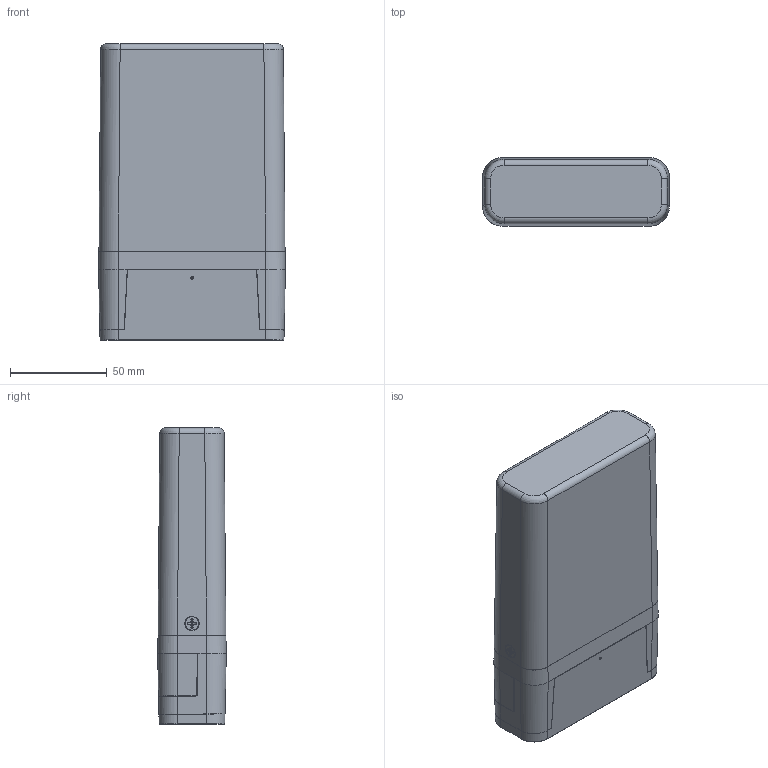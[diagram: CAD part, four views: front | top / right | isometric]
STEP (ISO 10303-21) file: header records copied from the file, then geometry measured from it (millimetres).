
FILE_DESCRIPTION(/* description */ ('Unknown'),/* implementation_level */ '2;1');
FILE_NAME(/* name */ 'AURA-X (661131)',/* time_stamp */ '2025-09-02T14:23:03+02:00',/* author */ ('Unknown'),/* organization */ ('Unknown'),/* preprocessor_version */ 'ST-DEVELOPER v19.4',/* originating_system */ 'Solid Edge',/* authorisation */ 'Unknown');
FILE_SCHEMA (('AUTOMOTIVE_DESIGN {1 0 10303 214 3 1 1}'));
Products named in the file (8): 661131; 322930; 322950; 322940; 322960; 430761_oa_0; 134458; 184084
Assembly tree (9 placements, depth 3):
  661131
    322930
    322950
    322940
    322960
    430761_oa_0
      134458  x2
      184084  x2
Bounding box: 96.4 x 35.43 x 153 mm (x, y, z)
Volume: 144819.7 mm3; surface area: 117478.4 mm2
Topology: 8 solids, 8 shells, 6639 faces, 18565 edges, 11991 vertices
Faces by surface type: plane 4543, bspline 746, cylinder 727, cone 516, torus 101, sphere 6
Full cylindrical faces by diameter (mm): 2.5 x1, 3.5 x2, 3.6 x3, 3.9 x2, 6 x2, 6.8 x2, 8 x4, 10 x2, 14.5 x4
Entity records: 222031 total; most frequent: CARTESIAN_POINT 58008, ORIENTED_EDGE 36606, DIRECTION 30573, EDGE_CURVE 18303, LINE 13587, VECTOR 13587, VERTEX_POINT 11889, AXIS2_PLACEMENT_3D 8493
